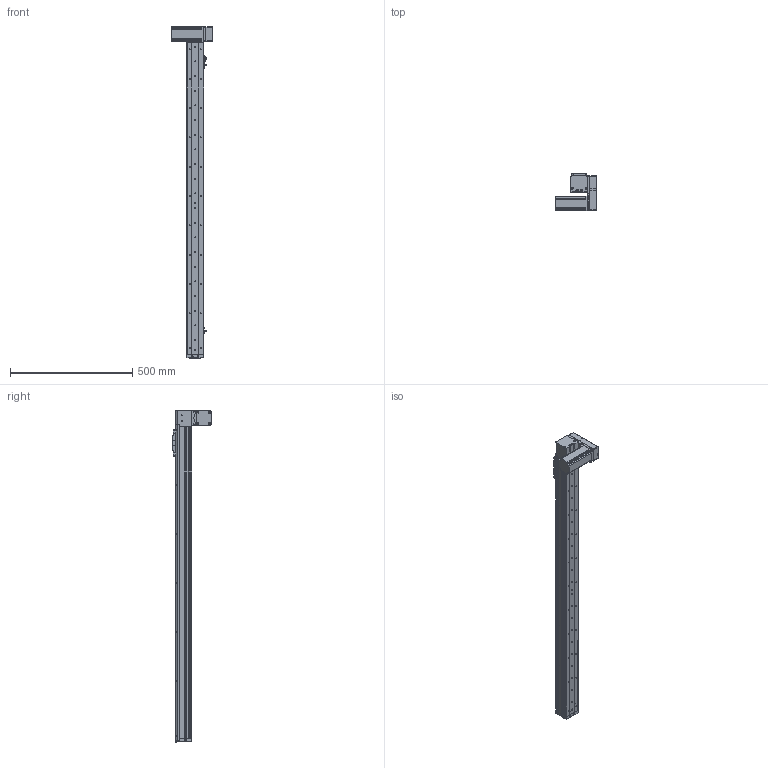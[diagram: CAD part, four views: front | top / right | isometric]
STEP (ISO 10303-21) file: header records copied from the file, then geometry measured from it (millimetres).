
FILE_DESCRIPTION (( 'STEP AP214' ), '1' );
FILE_NAME ('KSD68BS-S1100-MLD-CR.STEP', '2019-08-27T05:45:49', ( '微软用户' ), ( '微软中国' ), 'SwSTEP 2.0', 'SolidWorks 2014', '' );
FILE_SCHEMA (( 'AUTOMOTIVE_DESIGN' ));
Length unit declared in the file: millimetre
Products named in the file (14): KSD68BS 1100行程侧板全封闭; 68宽单导轨全封闭同步带端板; 68单导轨全封闭同步带电机座左; 68单导轨全封闭同步带安装板; 悵誘欶奻狟殏; 68宽马达安装板连板上折同步带; 感应片68宽全封闭; U倰嫖萇EEㄜSX672; 台达ECMA－C20604AS伺服电机（400W); KSD68BS 1100行程底板全封闭; KSD68BS-S1100-MLD-CR; KSD68BS 1100行程盖板全封闭; 68遵裔啣揤啣1; 68宽单导轨全封闭丝杆传动安装板1防护罩
Assembly tree (17 placements, depth 2):
  KSD68BS-S1100-MLD-CR
    KSD68BS 1100行程底板全封闭
    台达ECMA－C20604AS伺服电机（400W)
    U倰嫖萇EEㄜSX672  x3
    感应片68宽全封闭
    68宽马达安装板连板上折同步带
    悵誘欶奻狟殏
    68单导轨全封闭同步带安装板
    68单导轨全封闭同步带电机座左
    68宽单导轨全封闭同步带端板
    KSD68BS 1100行程侧板全封闭  x2
    68宽单导轨全封闭丝杆传动安装板1防护罩
    68遵裔啣揤啣1  x2
    KSD68BS 1100行程盖板全封闭
Bounding box: 167.2 x 155.5 x 1358.1 mm (x, y, z)
Volume: 2670667.9 mm3; surface area: 1035976.6 mm2
Topology: 18 solids, 18 shells, 1541 faces, 4395 edges, 2808 vertices
Faces by surface type: cylinder 740, plane 629, cone 172
Entity records: 49239 total; most frequent: CARTESIAN_POINT 8511, DIRECTION 7354, ORIENTED_EDGE 7034, EDGE_CURVE 3517, AXIS2_PLACEMENT_3D 2663, VERTEX_POINT 2306, VECTOR 2028, LINE 2028
